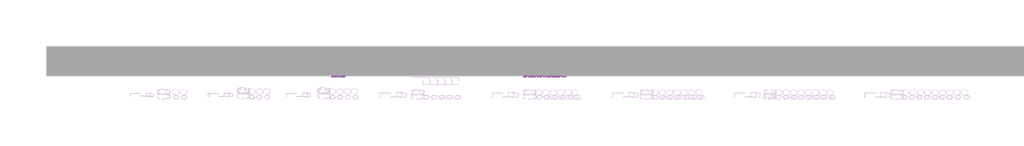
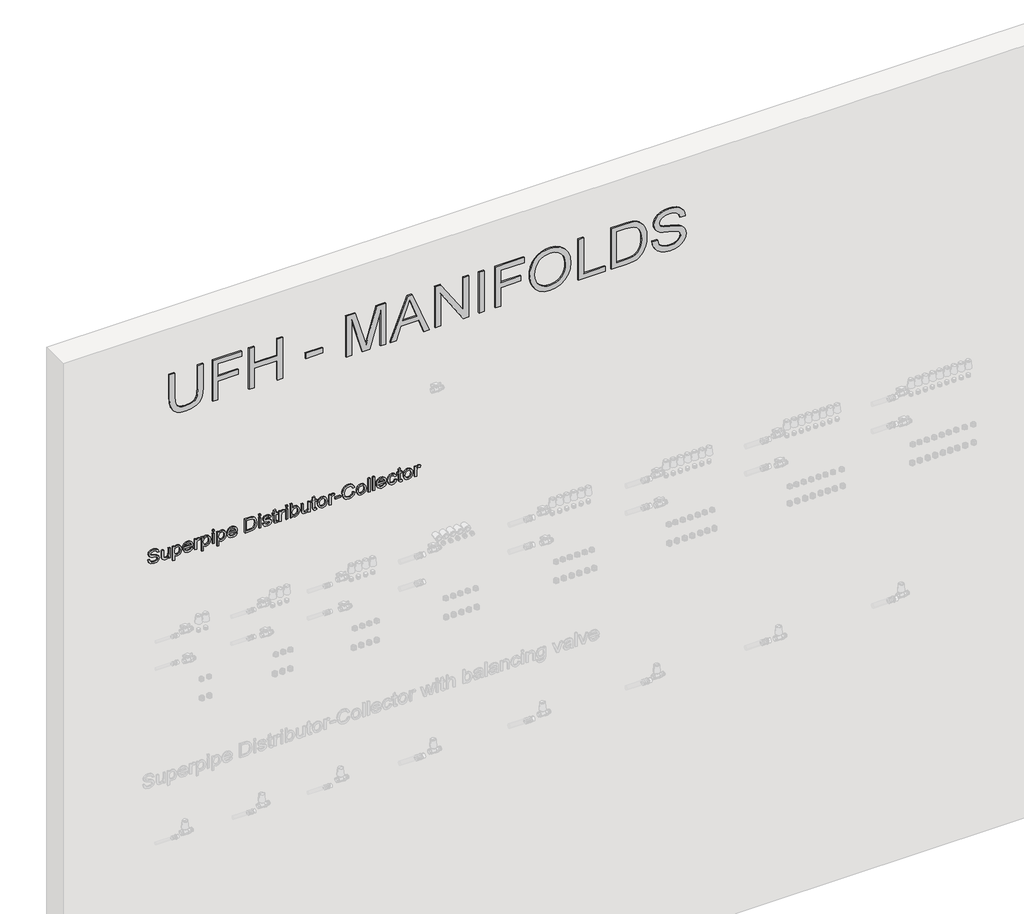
# One storey, part 10 of 26: 2 proxies.
"""IFC4 building model written with IfcOpenShell, lengths in millimetres."""

import ifcopenshell
import ifcopenshell.guid

model = None  # the IFC model being written
_history = None  # IfcOwnerHistory: only IFC2X3 demands one
_inside = {}  # id of a spatial element -> (the spatial element, [elements in it])
_under = {}  # id of a project, library or spatial element -> (it, [spatial elements below it])
_declared = {}  # id of a project -> (the project, [libraries it declares])
_typed = {}  # id of a type object -> (the type object, [elements of that type])
_made_of = {}  # id of a material, layer set ... -> (it, [elements and type objects made of it])


def new_model(schema):
    """Start an empty IFC model of exactly this schema.

    Asked for "IFC4X3", IfcOpenShell would pick the latest addendum, in which some entities
    have other attributes; the version numbers below select the first issue.
    IFC2X3 requires an IfcOwnerHistory on every rooted entity: one is made here for all.
    """
    global model, _history
    if schema == "IFC4X3":
        model = ifcopenshell.file(schema_version=(4, 3, 0, 0))
    else:
        model = ifcopenshell.file(schema=schema)
    _inside.clear()
    _under.clear()
    _declared.clear()
    _typed.clear()
    _made_of.clear()
    _history = None
    if model.schema == "IFC2X3":
        org = make("IfcOrganization", Name="unknown")
        user = make(
            "IfcPersonAndOrganization",
            ThePerson=make("IfcPerson", FamilyName="unknown"),
            TheOrganization=org,
        )
        app = make(
            "IfcApplication",
            ApplicationDeveloper=org,
            Version="unknown",
            ApplicationFullName="unknown",
            ApplicationIdentifier="unknown",
        )
        _history = make(
            "IfcOwnerHistory",
            OwningUser=user,
            OwningApplication=app,
            ChangeAction="ADDED",
            CreationDate=0,
        )
    return model


def make(cls, **values):
    """One entity of the class cls with the attributes given. An attribute that is None is left unset."""
    return model.create_entity(
        cls, **{name: value for name, value in values.items() if value is not None}
    )


def rooted(cls, **values):
    """An entity with a GlobalId (a new one), such as an element, a storey or a relation."""
    return make(cls, GlobalId=ifcopenshell.guid.new(), OwnerHistory=_history, **values)


def si_unit(unit_type, name, prefix=None):
    """IfcSIUnit, for example si_unit("LENGTHUNIT", "METRE", prefix="MILLI")."""
    return make("IfcSIUnit", UnitType=unit_type, Prefix=prefix, Name=name)


def assignment(units):
    """IfcUnitAssignment: the units of a project."""
    return None if units is None else make("IfcUnitAssignment", Units=units)


def point(xyz):
    """IfcCartesianPoint."""
    return None if xyz is None else make("IfcCartesianPoint", Coordinates=xyz)


def direction(xyz):
    """IfcDirection."""
    return None if xyz is None else make("IfcDirection", DirectionRatios=xyz)


def frame(location, z_axis=None, x_axis=None):
    """IfcAxis2Placement3D, a coordinate frame: its origin and axes. An axis left out is left unset."""
    return make(
        "IfcAxis2Placement3D",
        Location=point(location),
        Axis=direction(z_axis),
        RefDirection=direction(x_axis),
    )


def origin():
    """The frame at (0, 0, 0) with its axes left unset."""
    return frame((0.0, 0.0, 0.0))


def place(relative_to, where):
    """IfcLocalPlacement: puts the frame where relative to a parent placement (None: the world)."""
    return make(
        "IfcLocalPlacement", PlacementRelTo=relative_to, RelativePlacement=where
    )


def context(
    kind, dimensions, precision=None, world=None, true_north=None, identifier=None
):
    """IfcGeometricRepresentationContext, for example the 3D "Model" context."""
    return make(
        "IfcGeometricRepresentationContext",
        ContextIdentifier=identifier,
        ContextType=kind,
        CoordinateSpaceDimension=dimensions,
        Precision=precision,
        WorldCoordinateSystem=world,
        TrueNorth=true_north,
    )


def project(units=None, contexts=None):
    """IfcProject with its units and contexts."""
    return rooted(
        "IfcProject",
        Name="project",
        RepresentationContexts=contexts,
        UnitsInContext=assignment(units),
    )


def spatial(cls, under=None, at=None, **own):
    """A site, building, storey or space (cls), placed at a placement, below another one or the project."""
    s = rooted(cls, ObjectPlacement=at, **own)
    if under is not None:
        _under.setdefault(under.id(), (under, []))[1].append(s)
    return s


def polyline(points):
    """IfcPolyline through the points."""
    return make("IfcPolyline", Points=[point(p) for p in points])


def outline(outer, holes=None, kind="AREA"):
    """IfcArbitraryClosedProfileDef: a profile drawn as a closed curve; with holes, ...WithVoids."""
    if holes is None:
        return make("IfcArbitraryClosedProfileDef", ProfileType=kind, OuterCurve=outer)
    return make(
        "IfcArbitraryProfileDefWithVoids",
        ProfileType=kind,
        OuterCurve=outer,
        InnerCurves=holes,
    )


def extrude(swept, where, along, depth):
    """IfcExtrudedAreaSolid: the profile swept, set in the frame where, extruded along a direction by depth."""
    return make(
        "IfcExtrudedAreaSolid",
        SweptArea=swept,
        Position=where,
        ExtrudedDirection=direction(along),
        Depth=depth,
    )


def shape(context_of_items, identifier, shape_type, items):
    """IfcShapeRepresentation: the items that make up one representation, for example the "Body"."""
    return make(
        "IfcShapeRepresentation",
        ContextOfItems=context_of_items,
        RepresentationIdentifier=identifier,
        RepresentationType=shape_type,
        Items=items,
    )


def made_of(thing, what):
    """Note that an element or type object is made of a material, layer set ...; save() writes the relation."""
    if what is not None:
        _made_of.setdefault(what.id(), (what, []))[1].append(thing)
    return thing


def element(
    cls,
    number,
    at=None,
    inside=None,
    cuts=None,
    type_object=None,
    material=None,
    context=None,
    identifier="Body",
    shape_type=None,
    held_by="IfcProductDefinitionShape",
    body=None,
    shapes=None,
    **own,
):
    """One element of the class cls, such as IfcWall. Its Tag is "e" and its number.

    at: its placement. inside: the storey or other place that contains it. cuts: it is an
    opening in that element (IfcRelVoidsElement). A single representation is given by context,
    identifier, shape_type and body (its items); several are given by shapes. held_by: the class
    of the entity that holds the representations. save() writes the other relations.
    """
    e = rooted(cls, Tag="e%d" % number, ObjectPlacement=at, **own)
    if body is not None:
        shapes = [shape(context, identifier, shape_type, body)]
    if shapes is not None:
        e.Representation = make(held_by, Representations=shapes)
    if inside is not None:
        _inside.setdefault(inside.id(), (inside, []))[1].append(e)
    if cuts is not None:
        rooted(
            "IfcRelVoidsElement", RelatingBuildingElement=cuts, RelatedOpeningElement=e
        )
    if type_object is not None:
        _typed.setdefault(type_object.id(), (type_object, []))[1].append(e)
    return made_of(e, material)


def aggregate(whole, parts):
    """IfcRelAggregates: a whole, such as a stair, and the parts it consists of."""
    return rooted("IfcRelAggregates", RelatingObject=whole, RelatedObjects=parts)


def save(model, path):
    """Write the relations noted so far, then the file.

    IfcRelAggregates (storeys below a building ...), IfcRelContainedInSpatialStructure (elements
    in a storey), IfcRelDefinesByType, IfcRelAssociatesMaterial and IfcRelDeclares: one each for
    every whole, place, type object, material and project.
    """
    for whole, parts in _under.values():
        aggregate(whole, parts)
    for where, things in _inside.values():
        rooted(
            "IfcRelContainedInSpatialStructure",
            RelatedElements=things,
            RelatingStructure=where,
        )
    for kind, things in _typed.values():
        rooted("IfcRelDefinesByType", RelatedObjects=things, RelatingType=kind)
    for what, things in _made_of.values():
        rooted("IfcRelAssociatesMaterial", RelatedObjects=things, RelatingMaterial=what)
    for by, libraries in _declared.values():
        rooted("IfcRelDeclares", RelatingContext=by, RelatedDefinitions=libraries)
    model.write(path)


model = new_model("IFC4")

# Units and contexts
model_context = context("Model", 3, world=origin())
ifc_project = project(units=[si_unit("LENGTHUNIT", "METRE", prefix="MILLI")], contexts=[model_context])

# Site, building, storey
site = spatial("IfcSite", under=ifc_project)
building = spatial("IfcBuilding", under=site)
storey = spatial("IfcBuildingStorey", under=building, Name="Superpipe UFH", Elevation=0.0)

# Proxies
placement = place(None, origin())
element("IfcBuildingElementProxy", 1, Name="300mm Arial", ObjectType="300mm Arial", at=placement, inside=storey, context=model_context, shape_type="SweptSolid", body=[
    extrude(outline(polyline([(5366.4461603, 1324.8393717), (5193.9095045, 1324.8393717), (5146.7470327, 1320.0752998), (5130.008402, 1314.12021), (5117.8315079, 1305.7830843), (5109.1724855, 1294.6500554), (5102.9874694, 1280.3072561), (5098.0394566, 1241.9923463), (5100.5410541, 1217.8224993), (5108.0458468, 1197.6993541), (5120.1583615, 1182.2667044), (5136.4831251, 1172.1683437), (5160.0551639, 1166.5949314), (5193.9095045, 1164.7371273), (5366.4461603, 1164.7371273), (5366.4461603, 1127.066011), (5192.5851293, 1127.066011), (5149.8096504, 1129.9262936), (5117.1325321, 1138.5071411), (5092.769547, 1153.7742439), (5074.9364673, 1176.6932922), (5064.010372, 1207.273483), (5060.3683403, 1245.5240135), (5064.552998, 1284.6298696), (5077.1069711, 1315.4215926), (5096.3288053, 1337.9543648), (5120.5170465, 1352.2833685), (5151.8697895, 1359.9537081), (5192.5851293, 1362.510488), (5366.4461603, 1362.510488), (5366.4461603, 1324.8393717)])), frame((0.0, -1221.7394303, 0.0), z_axis=(0.0, 1.0, 0.0), x_axis=(0.0, 0.0, 1.0)), (0.0, 0.0, 1.0), 10.0),
    extrude(outline(polyline([(5065.0772298, 1428.4349415), (5065.0772298, 1466.1060578), (5201.6350264, 1466.1060578), (5201.6350264, 1607.3727439), (5239.3061427, 1607.3727439), (5239.3061427, 1466.1060578), (5328.775044, 1466.1060578), (5328.775044, 1630.9171916), (5366.4461603, 1630.9171916), (5366.4461603, 1428.4349415), (5065.0772298, 1428.4349415)])), frame((0.0, -1221.7394303, 0.0), z_axis=(0.0, 1.0, 0.0), x_axis=(0.0, 0.0, 1.0)), (0.0, 0.0, 1.0), 10.0),
    extrude(outline(polyline([(5065.0772298, 1682.7149766), (5065.0772298, 1720.3860929), (5206.343916, 1720.3860929), (5206.343916, 1880.4883372), (5065.0772298, 1880.4883372), (5065.0772298, 1918.1594535), (5366.4461603, 1918.1594535), (5366.4461603, 1880.4883372), (5244.0150323, 1880.4883372), (5244.0150323, 1720.3860929), (5366.4461603, 1720.3860929), (5366.4461603, 1682.7149766), (5065.0772298, 1682.7149766)])), frame((0.0, -1221.7394303, 0.0), z_axis=(0.0, 1.0, 0.0), x_axis=(0.0, 0.0, 1.0)), (0.0, 0.0, 1.0), 10.0),
    extrude(outline(polyline([(2195.9839362, -1221.7394303), (2078.2616978, -1221.7394303), (2078.2616978, -1211.7394303), (2195.9839362, -1211.7394303), (2195.9839362, -1221.7394303)])), frame((0.0, 0.0, 5154.546131), z_axis=(0.0, 0.0, 1.0), x_axis=(1.0, 0.0, 0.0)), (0.0, 0.0, 1.0), 37.6711163),
    extrude(outline(polyline([(5065.0772298, 2360.7950701), (5065.0772298, 2398.4661864), (5328.775044, 2398.4661864), (5065.0772298, 2474.176301), (5065.0772298, 2525.2383219), (5328.775044, 2600.9484365), (5065.0772298, 2600.9484365), (5065.0772298, 2638.6195528), (5366.4461603, 2638.6195528), (5366.4461603, 2573.7987453), (5157.7099162, 2513.1717925), (5109.6645276, 2499.7073114), (5154.0310962, 2487.2729), (5366.4461603, 2425.6158776), (5366.4461603, 2360.7950701), (5065.0772298, 2360.7950701)])), frame((0.0, -1221.7394303, 0.0), z_axis=(0.0, 1.0, 0.0), x_axis=(0.0, 0.0, 1.0)), (0.0, 0.0, 1.0), 10.0),
    extrude(outline(polyline([(5065.0772298, 2669.448064), (5065.0772298, 2709.2528959), (5159.2550206, 2743.6866506), (5159.2550206, 2867.8100358), (5065.0772298, 2902.317367), (5065.0772298, 2942.1221988), (5366.4461603, 2821.8247864), (5366.4461603, 2789.7454764), (5065.0772298, 2669.448064)]), holes=[polyline([(5196.9261369, 2757.5190137), (5277.4922938, 2787.0231497), (5328.775044, 2805.7851314), (5271.0175707, 2826.901558), (5196.9261369, 2854.0512492), (5196.9261369, 2757.5190137)])]), frame((0.0, -1221.7394303, 0.0), z_axis=(0.0, 1.0, 0.0), x_axis=(0.0, 0.0, 1.0)), (0.0, 0.0, 1.0), 10.0),
    extrude(outline(polyline([(5065.0772298, 2982.3684891), (5065.0772298, 3020.0396054), (5303.9062211, 3020.0396054), (5065.0772298, 3177.4930994), (5065.0772298, 3217.812966), (5366.4461603, 3217.812966), (5366.4461603, 3180.1418497), (5127.6907454, 3180.1418497), (5366.4461603, 3022.6883558), (5366.4461603, 2982.3684891), (5065.0772298, 2982.3684891)])), frame((0.0, -1221.7394303, 0.0), z_axis=(0.0, 1.0, 0.0), x_axis=(0.0, 0.0, 1.0)), (0.0, 0.0, 1.0), 10.0),
    extrude(outline(polyline([(3326.1174254, -1221.7394303), (3288.4463091, -1221.7394303), (3288.4463091, -1211.7394303), (3326.1174254, -1211.7394303), (3326.1174254, -1221.7394303)])), frame((0.0, 0.0, 5065.0772298), z_axis=(0.0, 0.0, 1.0), x_axis=(1.0, 0.0, 0.0)), (0.0, 0.0, 1.0), 301.3689304),
    extrude(outline(polyline([(5065.0772298, 3401.459658), (5065.0772298, 3439.1307743), (5201.6350264, 3439.1307743), (5201.6350264, 3580.3974605), (5239.3061427, 3580.3974605), (5239.3061427, 3439.1307743), (5328.775044, 3439.1307743), (5328.775044, 3603.9419082), (5366.4461603, 3603.9419082), (5366.4461603, 3401.459658), (5065.0772298, 3401.459658)])), frame((0.0, -1221.7394303, 0.0), z_axis=(0.0, 1.0, 0.0), x_axis=(0.0, 0.0, 1.0)), (0.0, 0.0, 1.0), 10.0),
    extrude(outline(polyline([(5211.7885695, 3641.6130245), (5173.2437334, 3645.9172438), (5136.7774307, 3658.8299019), (5105.0843968, 3680.0934812), (5080.8593674, 3709.4504644), (5065.4910971, 3745.0982297), (5060.3683403, 3785.2341554), (5065.0036534, 3823.0432274), (5078.9095928, 3858.185155), (5101.8286411, 3888.1491435), (5133.5032809, 3910.4243984), (5171.9653435, 3924.2475643), (5215.2466602, 3928.8552863), (5257.9577599, 3924.4774906), (5295.8863936, 3911.3441033), (5327.5058511, 3889.8597948), (5351.2894221, 3860.4292352), (5366.1886429, 3824.983805), (5371.1550498, 3785.4548846), (5368.510898, 3755.1644008), (5360.5784424, 3727.7893818), (5347.3576832, 3703.3298277), (5328.8486204, 3681.7857383), (5305.6674561, 3664.210176), (5278.4303929, 3651.6562029), (5247.1374307, 3644.1238191), (5211.7885695, 3641.6130245)]), holes=[polyline([(5211.4206875, 3679.2841408), (5241.9571924, 3681.2477109), (5267.7894062, 3687.1384214), (5288.917329, 3696.9562721), (5305.3409609, 3710.7012632), (5317.6535114, 3727.168581), (5326.4481903, 3745.153412), (5331.7249977, 3764.6557563), (5333.4839335, 3785.6756138), (5329.8327047, 3814.839459), (5318.8790183, 3840.9682777), (5301.2850619, 3862.6273301), (5277.713023, 3878.3818766), (5248.8894687, 3887.9835966), (5215.5409658, 3891.18417), (5189.0028784, 3889.3148696), (5165.6745614, 3883.7069685), (5145.5560148, 3874.3604665), (5128.6472386, 3861.2753638), (5115.256334, 3845.2931904), (5105.6914021, 3827.2554763), (5099.952443, 3807.1622216), (5098.0394566, 3785.0134262), (5099.9340489, 3763.2371113), (5105.6178257, 3743.3783814), (5115.0907871, 3725.4372363), (5128.352933, 3709.4136762), (5144.9122213, 3696.2320044), (5164.2766098, 3686.8165246), (5186.4460985, 3681.1672367), (5211.4206875, 3679.2841408)])]), frame((0.0, -1221.7394303, 0.0), z_axis=(0.0, 1.0, 0.0), x_axis=(0.0, 0.0, 1.0)), (0.0, 0.0, 1.0), 10.0),
    extrude(outline(polyline([(5065.0772298, 3980.6530712), (5065.0772298, 4169.0086528), (5102.7483461, 4169.0086528), (5102.7483461, 4018.3241875), (5366.4461603, 4018.3241875), (5366.4461603, 3980.6530712), (5065.0772298, 3980.6530712)])), frame((0.0, -1221.7394303, 0.0), z_axis=(0.0, 1.0, 0.0), x_axis=(0.0, 0.0, 1.0)), (0.0, 0.0, 1.0), 10.0),
    extrude(outline(polyline([(5065.0772298, 4211.3886586), (5065.0772298, 4320.3553056), (5070.2275777, 4368.8053643), (5076.5827392, 4388.3490953), (5085.3475277, 4404.8210117), (5097.1657368, 4419.1684095), (5112.68116, 4432.3385849), (5132.3352556, 4443.779715), (5156.569482, 4452.9399766), (5185.0343514, 4458.9548473), (5217.3803758, 4460.9598041), (5255.4561623, 4457.9983541), (5289.0437885, 4449.1140039), (5317.5914313, 4434.2699654), (5340.5472678, 4413.4294504), (5353.7358373, 4393.1591524), (5362.1051527, 4369.1364581), (5366.4461603, 4315.3521104), (5366.4461603, 4211.3886586), (5065.0772298, 4211.3886586)]), holes=[polyline([(5102.7483461, 4249.0597749), (5328.775044, 4249.0597749), (5328.775044, 4314.6899229), (5327.2667278, 4346.438139), (5322.7417792, 4368.1063886), (5310.160215, 4389.397559), (5289.3380941, 4407.2122446), (5259.0246177, 4419.269577), (5217.968987, 4423.2886878), (5186.984126, 4421.2377457), (5160.984066, 4415.0849193), (5139.8768365, 4405.253273), (5123.570467, 4392.165871), (5114.7596933, 4379.988977), (5108.1929996, 4364.2068394), (5104.1095095, 4343.292748), (5102.7483461, 4315.7199924), (5102.7483461, 4249.0597749)])]), frame((0.0, -1221.7394303, 0.0), z_axis=(0.0, 1.0, 0.0), x_axis=(0.0, 0.0, 1.0)), (0.0, 0.0, 1.0), 10.0),
    extrude(outline(polyline([(5168.6727997, 4498.6309204), (5138.2489587, 4503.1006867), (5111.1360556, 4514.8913046), (5088.8791949, 4533.2578132), (5073.0234809, 4557.4552515), (5063.5321254, 4587.8331072), (5060.3683403, 4624.7408684), (5063.3021992, 4654.8060244), (5072.1037759, 4681.7257894), (5086.1936563, 4704.1114088), (5104.9924263, 4720.5741281), (5126.8354198, 4730.70008), (5150.0579707, 4734.0753974), (5172.7746839, 4731.1415384), (5192.6587057, 4722.3399617), (5209.5260952, 4707.3579675), (5223.1929113, 4685.882856), (5232.0036851, 4660.7565157), (5242.1020459, 4619.2226385), (5252.7338356, 4578.9763482), (5263.144896, 4557.7127689), (5274.7883612, 4548.7180541), (5289.2645177, 4545.7198158), (5306.2422717, 4549.9504588), (5320.5344873, 4562.6423876), (5330.2465719, 4584.5865486), (5333.4839335, 4616.5738881), (5330.2097837, 4647.8254636), (5320.3873345, 4670.3582358), (5304.1637385, 4684.77921), (5281.6861486, 4691.6953915), (5281.6861486, 4729.3665078), (5306.6469419, 4725.1174708), (5328.8486204, 4714.4304988), (5347.1507496, 4697.5447152), (5360.4128955, 4674.6992433), (5368.4695112, 4646.8873645), (5371.1550498, 4615.1023601), (5368.5890729, 4585.763771), (5360.8911421, 4559.2578732), (5348.2360015, 4537.1757565), (5330.7983949, 4521.1085103), (5310.2245943, 4511.3136522), (5288.1608717, 4508.0486995), (5268.4240026, 4510.6882528), (5250.7104846, 4518.6069128), (5235.3514113, 4531.8966499), (5222.6778765, 4550.6494346), (5213.6187824, 4573.6880445), (5204.0998358, 4609.6944948), (5189.7156498, 4664.5457003), (5181.9073544, 4680.6221435), (5172.609137, 4690.1502871), (5161.7106329, 4694.8407826), (5149.1014775, 4696.404281), (5136.1612283, 4694.3165507), (5123.8279844, 4688.0533598), (5113.0858302, 4677.5227376), (5104.9188499, 4662.6327139), (5099.7593049, 4644.2570082), (5098.0394566, 4623.2693404), (5100.3111279, 4599.4305871), (5107.1261419, 4578.0934314), (5117.6291728, 4560.6374307), (5130.9648951, 4548.4421426), (5147.7679053, 4540.6246502), (5168.6727997, 4536.3020367), (5168.6727997, 4498.6309204)])), frame((0.0, -1221.7394303, 0.0), z_axis=(0.0, 1.0, 0.0), x_axis=(0.0, 0.0, 1.0)), (0.0, 0.0, 1.0), 10.0),
])
element("IfcBuildingElementProxy", 2, Name="600mm Arial 2", ObjectType="600mm Arial 2", at=placement, inside=storey, context=model_context, shape_type="SweptSolid", body=[
    extrude(outline(polyline([(4048.7008113, 978.3492492), (4029.5218966, 983.7693772), (4016.817705, 997.9573595), (4012.5993248, 1020.3858985), (4016.5111367, 1039.3808722), (4027.4740202, 1052.3303184), (4042.4958683, 1056.8307415), (4056.6961133, 1052.9189296), (4066.8741818, 1040.766561), (4073.1772267, 1018.5464885), (4080.1915101, 998.0431987), (4088.8980506, 994.0455476), (4099.3213738, 999.6864049), (4103.6378559, 1017.6635717), (4099.2723229, 1035.5916876), (4093.8644576, 1040.398679), (4086.3719276, 1042.7040729), (4086.3719276, 1055.2611116), (4102.0927515, 1050.282442), (4112.6141766, 1037.0386902), (4116.1948947, 1017.1730624), (4112.7735921, 998.5582335), (4102.7426764, 985.8417792), (4088.5301686, 981.4885089), (4076.0467063, 985.0079133), (4066.7025036, 995.6887539), (4060.5098233, 1015.3704406), (4055.7150947, 1033.6541758), (4050.0129237, 1042.1890381), (4042.1770372, 1044.2737027), (4033.7525395, 1041.4900623), (4027.4494947, 1033.0165137), (4025.1563636, 1019.8953892), (4028.1852587, 1004.8367528), (4036.1315098, 994.9529899), (4048.7008113, 990.906288), (4048.7008113, 978.3492492)])), frame((0.0, -1221.7394303, 0.0), z_axis=(0.0, 1.0, 0.0), x_axis=(0.0, 0.0, 1.0)), (0.0, 0.0, 1.0), 10.0),
    extrude(outline(polyline([(4014.1689547, 1121.1855652), (4014.1689547, 1133.742604), (4087.9415574, 1133.742604), (4087.9415574, 1121.1855652), (4049.5592026, 1121.1855652), (4035.5674241, 1119.1499515), (4027.9522668, 1112.2215072), (4025.1563636, 1101.7368704), (4027.8909531, 1092.380405), (4035.4080085, 1087.413998), (4048.210302, 1086.6537086), (4087.9415574, 1086.6537086), (4087.9415574, 1074.0966698), (4042.2996646, 1074.0966698), (4030.6255426, 1074.8324338), (4021.3794418, 1078.5725674), (4015.1009224, 1086.7150222), (4012.5993248, 1098.5240343), (4016.1616488, 1111.3508532), (4026.8486208, 1121.1855652), (4014.1689547, 1121.1855652)])), frame((0.0, -1221.7394303, 0.0), z_axis=(0.0, 1.0, 0.0), x_axis=(0.0, 0.0, 1.0)), (0.0, 0.0, 1.0), 10.0),
    extrude(outline(polyline([(3985.9156174, 1151.0085323), (3985.9156174, 1163.565571), (4023.9791412, 1163.565571), (4015.8244236, 1171.5240849), (4012.5993248, 1182.4501801), (4017.418579, 1198.3304196), (4031.2754674, 1209.8328633), (4051.6193418, 1213.7937261), (4070.9699347, 1210.2865844), (4084.6551449, 1199.8877867), (4089.5111873, 1183.970759), (4086.0408338, 1172.2475861), (4075.6297733, 1163.565571), (4087.9415574, 1163.565571), (4087.9415574, 1151.0085323), (3985.9156174, 1151.0085323)]), holes=[polyline([(4050.4666449, 1163.565571), (4061.8556583, 1165.0156392), (4070.1728571, 1169.3658438), (4075.2588256, 1175.598378), (4076.9541485, 1182.6954348), (4075.3599932, 1189.7649004), (4070.5775273, 1195.7675083), (4062.594488, 1199.8693926), (4051.3986126, 1201.2366873), (4039.7183592, 1199.8356701), (4031.5575103, 1195.6326183), (4026.7566503, 1189.4675292), (4025.1563636, 1182.1804), (4026.701468, 1175.0097668), (4031.3367811, 1168.9979618), (4039.2094558, 1164.9236687), (4050.4666449, 1163.565571)])]), frame((0.0, -1221.7394303, 0.0), z_axis=(0.0, 1.0, 0.0), x_axis=(0.0, 0.0, 1.0)), (0.0, 0.0, 1.0), 10.0),
    extrude(outline(polyline([(4036.1437725, 1279.5710268), (4027.7805885, 1271.4776229), (4025.1563636, 1259.1658388), (4026.5727093, 1250.278423), (4030.8217463, 1242.9912938), (4037.7317965, 1237.9421134), (4047.1311814, 1235.7685439), (4047.1311814, 1292.201642), (4050.5156958, 1292.2752184), (4066.9784151, 1289.8931825), (4079.2840678, 1282.7470747), (4086.9544074, 1271.8485706), (4089.5111873, 1258.2093457), (4086.948276, 1244.131728), (4079.2595423, 1232.9481153), (4066.9293641, 1225.6456577), (4050.4421194, 1223.2115052), (4034.4913692, 1225.6211322), (4022.5444014, 1232.8500135), (4015.085594, 1244.1869103), (4012.5993248, 1258.9205842), (4014.040196, 1270.8062383), (4018.3628094, 1280.3681045), (4025.297385, 1287.4467672), (4034.5741427, 1291.8828109), (4036.1437725, 1279.5710268)]), holes=[polyline([(4059.6882202, 1235.7685439), (4066.7668829, 1237.8317488), (4072.2575217, 1242.6969882), (4076.9541485, 1258.1602947), (4075.4826205, 1267.3696073), (4071.0680366, 1274.690459), (4059.6882202, 1279.7181796), (4059.6882202, 1235.7685439)])]), frame((0.0, -1221.7394303, 0.0), z_axis=(0.0, 1.0, 0.0), x_axis=(0.0, 0.0, 1.0)), (0.0, 0.0, 1.0), 10.0),
    extrude(outline(polyline([(4014.1689547, 1304.8322572), (4014.1689547, 1317.3892959), (4052.943717, 1317.3892959), (4067.6099458, 1319.4249096), (4074.4770764, 1323.9498582), (4076.9541485, 1331.0499807), (4074.3789745, 1339.8791486), (4085.6361636, 1344.0730033), (4089.5111873, 1331.4669136), (4087.0831661, 1323.6187644), (4077.0277249, 1315.8196661), (4087.9415574, 1315.8196661), (4087.9415574, 1304.8322572), (4014.1689547, 1304.8322572)])), frame((0.0, -1221.7394303, 0.0), z_axis=(0.0, 1.0, 0.0), x_axis=(0.0, 0.0, 1.0)), (0.0, 0.0, 1.0), 10.0),
    extrude(outline(polyline([(3985.9156174, 1351.9211526), (3985.9156174, 1364.4781913), (4023.9791412, 1364.4781913), (4015.8244236, 1372.4367052), (4012.5993248, 1383.3628004), (4017.418579, 1399.2430399), (4031.2754674, 1410.7454836), (4051.6193418, 1414.7063464), (4070.9699347, 1411.1992047), (4084.6551449, 1400.800407), (4089.5111873, 1384.8833793), (4086.0408338, 1373.1602064), (4075.6297733, 1364.4781913), (4087.9415574, 1364.4781913), (4087.9415574, 1351.9211526), (3985.9156174, 1351.9211526)]), holes=[polyline([(4050.4666449, 1364.4781913), (4061.8556583, 1365.9282595), (4070.1728571, 1370.2784641), (4075.2588256, 1376.5109983), (4076.9541485, 1383.6080551), (4075.3599932, 1390.6775207), (4070.5775273, 1396.6801286), (4062.594488, 1400.7820129), (4051.3986126, 1402.1493076), (4039.7183592, 1400.7482904), (4031.5575103, 1396.5452386), (4026.7566503, 1390.3801495), (4025.1563636, 1383.0930203), (4026.701468, 1375.9223871), (4031.3367811, 1369.9105821), (4039.2094558, 1365.836289), (4050.4666449, 1364.4781913)])]), frame((0.0, -1221.7394303, 0.0), z_axis=(0.0, 1.0, 0.0), x_axis=(0.0, 0.0, 1.0)), (0.0, 0.0, 1.0), 10.0),
    extrude(outline(polyline([(1441.3900538, -1221.7394303), (1428.833015, -1221.7394303), (1428.833015, -1211.7394303), (1441.3900538, -1211.7394303), (1441.3900538, -1221.7394303)])), frame((0.0, 0.0, 4102.068226), z_axis=(0.0, 0.0, 1.0), x_axis=(1.0, 0.0, 0.0)), (0.0, 0.0, 1.0), 12.5570388),
    extrude(outline(polyline([(1441.3900538, -1221.7394303), (1428.833015, -1221.7394303), (1428.833015, -1211.7394303), (1441.3900538, -1211.7394303), (1441.3900538, -1221.7394303)])), frame((0.0, 0.0, 4014.1689547), z_axis=(0.0, 0.0, 1.0), x_axis=(1.0, 0.0, 0.0)), (0.0, 0.0, 1.0), 73.7726028),
    extrude(outline(polyline([(3985.9156174, 1460.2256119), (3985.9156174, 1472.7826507), (4023.9791412, 1472.7826507), (4015.8244236, 1480.7411645), (4012.5993248, 1491.6672598), (4017.418579, 1507.5474992), (4031.2754674, 1519.049943), (4051.6193418, 1523.0108058), (4070.9699347, 1519.5036641), (4084.6551449, 1509.1048664), (4089.5111873, 1493.1878387), (4086.0408338, 1481.4646658), (4075.6297733, 1472.7826507), (4087.9415574, 1472.7826507), (4087.9415574, 1460.2256119), (3985.9156174, 1460.2256119)]), holes=[polyline([(4050.4666449, 1472.7826507), (4061.8556583, 1474.2327189), (4070.1728571, 1478.5829235), (4075.2588256, 1484.8154576), (4076.9541485, 1491.9125145), (4075.3599932, 1498.9819801), (4070.5775273, 1504.984588), (4062.594488, 1509.0864723), (4051.3986126, 1510.453767), (4039.7183592, 1509.0527497), (4031.5575103, 1504.849698), (4026.7566503, 1498.6846088), (4025.1563636, 1491.3974797), (4026.701468, 1484.2268464), (4031.3367811, 1478.2150415), (4039.2094558, 1474.1407484), (4050.4666449, 1472.7826507)])]), frame((0.0, -1221.7394303, 0.0), z_axis=(0.0, 1.0, 0.0), x_axis=(0.0, 0.0, 1.0)), (0.0, 0.0, 1.0), 10.0),
    extrude(outline(polyline([(4036.1437725, 1588.7881065), (4027.7805885, 1580.6947026), (4025.1563636, 1568.3829185), (4026.5727093, 1559.4955027), (4030.8217463, 1552.2083735), (4037.7317965, 1547.1591931), (4047.1311814, 1544.9856236), (4047.1311814, 1601.4187217), (4050.5156958, 1601.4922981), (4066.9784151, 1599.1102622), (4079.2840678, 1591.9641544), (4086.9544074, 1581.0656503), (4089.5111873, 1567.4264253), (4086.948276, 1553.3488076), (4079.2595423, 1542.165195), (4066.9293641, 1534.8627374), (4050.4421194, 1532.4285849), (4034.4913692, 1534.8382119), (4022.5444014, 1542.0670931), (4015.085594, 1553.4039899), (4012.5993248, 1568.1376639), (4014.040196, 1580.023318), (4018.3628094, 1589.5851842), (4025.297385, 1596.6638469), (4034.5741427, 1601.0998906), (4036.1437725, 1588.7881065)]), holes=[polyline([(4059.6882202, 1544.9856236), (4066.7668829, 1547.0488285), (4072.2575217, 1551.9140679), (4076.9541485, 1567.3773744), (4075.4826205, 1576.586687), (4071.0680366, 1583.9075387), (4059.6882202, 1588.9352593), (4059.6882202, 1544.9856236)])]), frame((0.0, -1221.7394303, 0.0), z_axis=(0.0, 1.0, 0.0), x_axis=(0.0, 0.0, 1.0)), (0.0, 0.0, 1.0), 10.0),
    extrude(outline(polyline([(4014.1689547, 1654.8597129), (4014.1689547, 1691.1819285), (4015.8857373, 1707.3319481), (4020.9257206, 1719.3371639), (4030.0369314, 1728.5096883), (4044.6663721, 1735.3768189), (4064.93667, 1738.0500947), (4088.8244742, 1734.1014946), (4105.9923007, 1722.2066434), (4113.1782623, 1707.4423127), (4114.6252648, 1689.5141968), (4114.6252648, 1654.8597129), (4014.1689547, 1654.8597129)]), holes=[polyline([(4026.7259934, 1667.4167516), (4102.068226, 1667.4167516), (4102.068226, 1689.2934676), (4100.0571378, 1707.0989562), (4088.9225761, 1720.1342415), (4078.818084, 1724.1533523), (4065.1328737, 1725.4930559), (4046.1379, 1722.7584664), (4033.6667004, 1715.1187837), (4028.5408779, 1705.7991065), (4026.7259934, 1689.6368241), (4026.7259934, 1667.4167516)])]), frame((0.0, -1221.7394303, 0.0), z_axis=(0.0, 1.0, 0.0), x_axis=(0.0, 0.0, 1.0)), (0.0, 0.0, 1.0), 10.0),
    extrude(outline(polyline([(1766.3034319, -1221.7394303), (1753.7463932, -1221.7394303), (1753.7463932, -1211.7394303), (1766.3034319, -1211.7394303), (1766.3034319, -1221.7394303)])), frame((0.0, 0.0, 4102.068226), z_axis=(0.0, 0.0, 1.0), x_axis=(1.0, 0.0, 0.0)), (0.0, 0.0, 1.0), 12.5570388),
    extrude(outline(polyline([(1766.3034319, -1221.7394303), (1753.7463932, -1221.7394303), (1753.7463932, -1211.7394303), (1766.3034319, -1211.7394303), (1766.3034319, -1221.7394303)])), frame((0.0, 0.0, 4014.1689547), z_axis=(0.0, 0.0, 1.0), x_axis=(1.0, 0.0, 0.0)), (0.0, 0.0, 1.0), 73.7726028),
    extrude(outline(polyline([(4036.1437725, 1780.4301005), (4025.9043903, 1783.8759286), (4018.5344877, 1790.0440833), (4014.0831155, 1799.2840528), (4012.5993248, 1811.9453248), (4015.6772708, 1827.4944705), (4024.3960741, 1838.0036328), (4036.4135526, 1841.6456645), (4047.3273852, 1838.543193), (4054.0228375, 1829.9838053), (4059.9334749, 1811.5529173), (4062.6067507, 1800.7371867), (4065.3781284, 1796.0528226), (4069.0324229, 1794.5567692), (4074.5751783, 1798.1620127), (4076.9541485, 1810.1794912), (4074.4648137, 1821.2282138), (4067.5363694, 1825.9493661), (4069.1059993, 1838.5064048), (4080.3754511, 1834.1899228), (4087.0463779, 1824.4778381), (4089.5111873, 1809.1984726), (4087.9783456, 1798.3950046), (4084.2627375, 1790.4119653), (4077.113564, 1784.2560733), (4067.7570986, 1781.9997304), (4057.628081, 1784.8078963), (4050.4543821, 1793.0607157), (4044.3107528, 1811.9698503), (4040.7300347, 1824.894771), (4035.0891775, 1829.0886258), (4028.123945, 1824.9192965), (4025.1563636, 1812.1170031), (4028.3937251, 1798.7996748), (4037.7134024, 1792.9871393), (4036.1437725, 1780.4301005)])), frame((0.0, -1221.7394303, 0.0), z_axis=(0.0, 1.0, 0.0), x_axis=(0.0, 0.0, 1.0)), (0.0, 0.0, 1.0), 10.0),
    extrude(outline(polyline([(4024.6413288, 1882.4560405), (4025.1563636, 1876.9868615), (4026.0024922, 1872.7071677), (4028.2956233, 1870.5611894), (4034.7703464, 1869.8990018), (4075.3845187, 1869.8990018), (4075.3845187, 1882.4560405), (4087.9415574, 1882.4560405), (4087.9415574, 1869.8990018), (4113.2518387, 1869.8990018), (4105.8696733, 1857.341963), (4087.9415574, 1857.341963), (4087.9415574, 1847.9241839), (4075.3845187, 1847.9241839), (4075.3845187, 1857.341963), (4034.4024644, 1857.341963), (4020.1531685, 1858.8625419), (4014.6839895, 1864.1109917), (4012.5993248, 1874.6324168), (4013.8010727, 1884.0256704), (4024.6413288, 1882.4560405)])), frame((0.0, -1221.7394303, 0.0), z_axis=(0.0, 1.0, 0.0), x_axis=(0.0, 0.0, 1.0)), (0.0, 0.0, 1.0), 10.0),
    extrude(outline(polyline([(4014.1689547, 1895.0130793), (4014.1689547, 1907.5701181), (4052.943717, 1907.5701181), (4067.6099458, 1909.6057318), (4074.4770764, 1914.1306803), (4076.9541485, 1921.2308028), (4074.3789745, 1930.0599707), (4085.6361636, 1934.2538255), (4089.5111873, 1921.6477358), (4087.0831661, 1913.7995865), (4077.0277249, 1906.0004882), (4087.9415574, 1906.0004882), (4087.9415574, 1895.0130793), (4014.1689547, 1895.0130793)])), frame((0.0, -1221.7394303, 0.0), z_axis=(0.0, 1.0, 0.0), x_axis=(0.0, 0.0, 1.0)), (0.0, 0.0, 1.0), 10.0),
    extrude(outline(polyline([(1954.6590135, -1221.7394303), (1942.1019747, -1221.7394303), (1942.1019747, -1211.7394303), (1954.6590135, -1211.7394303), (1954.6590135, -1221.7394303)])), frame((0.0, 0.0, 4014.1689547), z_axis=(0.0, 0.0, 1.0), x_axis=(1.0, 0.0, 0.0)), (0.0, 0.0, 1.0), 73.7726028),
    extrude(outline(polyline([(1954.6590135, -1221.7394303), (1942.1019747, -1221.7394303), (1942.1019747, -1211.7394303), (1954.6590135, -1211.7394303), (1954.6590135, -1221.7394303)])), frame((0.0, 0.0, 4102.068226), z_axis=(0.0, 0.0, 1.0), x_axis=(1.0, 0.0, 0.0)), (0.0, 0.0, 1.0), 12.5570388),
    extrude(outline(polyline([(4014.1689547, 1986.0516104), (4025.916653, 1986.0516104), (4015.9286569, 1994.5312904), (4012.5993248, 2005.6965089), (4015.1806302, 2017.398222), (4022.9245462, 2027.291182), (4035.3957458, 2034.0326196), (4052.158902, 2036.2797655), (4067.1316992, 2034.1092617), (4079.0878641, 2028.1127852), (4086.7765978, 2018.3516496), (4089.5111873, 2005.7700853), (4086.4761608, 1994.8439901), (4077.3710814, 1986.0516104), (4114.6252648, 1986.0516104), (4114.6252648, 1973.4945716), (4014.1689547, 1973.4945716), (4014.1689547, 1986.0516104)]), holes=[polyline([(4051.5702908, 1986.0516104), (4062.4534665, 1987.4679561), (4070.4303745, 1991.7169931), (4075.323205, 1997.9096734), (4076.9541485, 2005.1569487), (4075.3783873, 2012.2907937), (4070.6511037, 2018.2903359), (4062.6190134, 2022.364629), (4051.1288324, 2023.7227267), (4039.8041984, 2022.306381), (4031.6801376, 2018.057344), (4026.7873071, 2011.8646637), (4025.1563636, 2004.6173884), (4027.3697869, 1996.064132), (4034.0100569, 1989.4851757), (4051.5702908, 1986.0516104)])]), frame((0.0, -1221.7394303, 0.0), z_axis=(0.0, 1.0, 0.0), x_axis=(0.0, 0.0, 1.0)), (0.0, 0.0, 1.0), 10.0),
    extrude(outline(polyline([(4014.1689547, 2097.4953294), (4014.1689547, 2110.0523682), (4087.9415574, 2110.0523682), (4087.9415574, 2097.4953294), (4049.5592026, 2097.4953294), (4035.5674241, 2095.4597157), (4027.9522668, 2088.5312715), (4025.1563636, 2078.0466346), (4027.8909531, 2068.6901692), (4035.4080085, 2063.7237623), (4048.210302, 2062.9634728), (4087.9415574, 2062.9634728), (4087.9415574, 2050.4064341), (4042.2996646, 2050.4064341), (4030.6255426, 2051.1421981), (4021.3794418, 2054.8823317), (4015.1009224, 2063.0247865), (4012.5993248, 2074.8337985), (4016.1616488, 2087.6606174), (4026.8486208, 2097.4953294), (4014.1689547, 2097.4953294)])), frame((0.0, -1221.7394303, 0.0), z_axis=(0.0, 1.0, 0.0), x_axis=(0.0, 0.0, 1.0)), (0.0, 0.0, 1.0), 10.0),
    extrude(outline(polyline([(4024.6413288, 2154.0020039), (4025.1563636, 2148.5328249), (4026.0024922, 2144.253131), (4028.2956233, 2142.1071527), (4034.7703464, 2141.4449651), (4075.3845187, 2141.4449651), (4075.3845187, 2154.0020039), (4087.9415574, 2154.0020039), (4087.9415574, 2141.4449651), (4113.2518387, 2141.4449651), (4105.8696733, 2128.8879264), (4087.9415574, 2128.8879264), (4087.9415574, 2119.4701473), (4075.3845187, 2119.4701473), (4075.3845187, 2128.8879264), (4034.4024644, 2128.8879264), (4020.1531685, 2130.4085053), (4014.6839895, 2135.6569551), (4012.5993248, 2146.1783801), (4013.8010727, 2155.5716338), (4024.6413288, 2154.0020039)])), frame((0.0, -1221.7394303, 0.0), z_axis=(0.0, 1.0, 0.0), x_axis=(0.0, 0.0, 1.0)), (0.0, 0.0, 1.0), 10.0),
    extrude(outline(polyline([(4051.055256, 2163.419783), (4034.5986681, 2165.6975857), (4022.5076132, 2172.5309937), (4015.0763969, 2183.0554845), (4012.5993248, 2196.4065352), (4017.0997479, 2213.4149461), (4029.7426258, 2225.2730091), (4052.0853256, 2229.3442365), (4067.7233761, 2227.0419084), (4079.5661107, 2220.1349239), (4087.0249181, 2209.5981704), (4089.5111873, 2196.4065352), (4087.4694422, 2184.3522685), (4081.344207, 2174.2845646), (4068.8423505, 2166.1359784), (4051.055256, 2163.419783)]), holes=[polyline([(4051.0797815, 2175.9768218), (4062.4381381, 2177.4299556), (4070.5162136, 2181.7893573), (4075.3446648, 2188.3499195), (4076.9541485, 2196.4065352), (4075.3385334, 2204.3803775), (4070.4916881, 2210.937874), (4062.5055831, 2215.3248668), (4051.472189, 2216.7871978), (4039.8593807, 2215.3340639), (4031.6556122, 2210.9746622), (4026.7811757, 2204.4263627), (4025.1563636, 2196.4065352), (4026.7719787, 2188.3499195), (4031.618824, 2181.7893573), (4039.7152935, 2177.4299556), (4051.0797815, 2175.9768218)])]), frame((0.0, -1221.7394303, 0.0), z_axis=(0.0, 1.0, 0.0), x_axis=(0.0, 0.0, 1.0)), (0.0, 0.0, 1.0), 10.0),
    extrude(outline(polyline([(4014.1689547, 2243.4709051), (4014.1689547, 2256.0279439), (4052.943717, 2256.0279439), (4067.6099458, 2258.0635576), (4074.4770764, 2262.5885062), (4076.9541485, 2269.6886287), (4074.3789745, 2278.5177965), (4085.6361636, 2282.7116513), (4089.5111873, 2270.1055616), (4087.0831661, 2262.2574124), (4077.0277249, 2254.4583141), (4087.9415574, 2254.4583141), (4087.9415574, 2243.4709051), (4014.1689547, 2243.4709051)])), frame((0.0, -1221.7394303, 0.0), z_axis=(0.0, 1.0, 0.0), x_axis=(0.0, 0.0, 1.0)), (0.0, 0.0, 1.0), 10.0),
    extrude(outline(polyline([(2323.5220273, -1221.7394303), (2284.2812811, -1221.7394303), (2284.2812811, -1211.7394303), (2323.5220273, -1211.7394303), (2323.5220273, -1221.7394303)])), frame((0.0, 0.0, 4043.9919217), z_axis=(0.0, 0.0, 1.0), x_axis=(1.0, 0.0, 0.0)), (0.0, 0.0, 1.0), 12.5570388),
    extrude(outline(polyline([(4049.8780337, 2409.8516688), (4039.1236167, 2405.7896385), (4031.385832, 2399.1953537), (4026.7137307, 2390.461222), (4025.1563636, 2379.9796508), (4029.7303631, 2362.6524088), (4043.5504633, 2350.8556595), (4065.1819247, 2347.066475), (4083.8458046, 2350.2670483), (4098.2667788, 2361.3648219), (4103.6378559, 2381.0097204), (4098.7940763, 2397.9813431), (4083.3552952, 2408.282039), (4086.3474021, 2420.8390777), (4098.9534918, 2415.2932567), (4108.3712709, 2406.6510955), (4114.2389887, 2395.2682134), (4116.1948947, 2381.5002297), (4114.6835128, 2368.8818773), (4110.1493672, 2357.3671708), (4102.7028225, 2347.6581519), (4092.4542432, 2340.4568618), (4079.805234, 2335.9962926), (4065.1573992, 2334.5094362), (4038.3020135, 2339.7701487), (4027.2716851, 2346.2326091), (4019.1966753, 2355.0985652), (4014.2486624, 2366.6653883), (4012.5993248, 2381.2304496), (4014.7790256, 2395.5778474), (4021.3181281, 2407.5217495), (4032.0081657, 2416.6145662), (4046.6406721, 2422.4087076), (4049.8780337, 2409.8516688)])), frame((0.0, -1221.7394303, 0.0), z_axis=(0.0, 1.0, 0.0), x_axis=(0.0, 0.0, 1.0)), (0.0, 0.0, 1.0), 10.0),
    extrude(outline(polyline([(4051.055256, 2434.9657464), (4034.5986681, 2437.243549), (4022.5076132, 2444.0769571), (4015.0763969, 2454.6014478), (4012.5993248, 2467.9524986), (4017.0997479, 2484.9609095), (4029.7426258, 2496.8189725), (4052.0853256, 2500.8901999), (4067.7233761, 2498.5878717), (4079.5661107, 2491.6808873), (4087.0249181, 2481.1441338), (4089.5111873, 2467.9524986), (4087.4694422, 2455.8982319), (4081.344207, 2445.8305279), (4068.8423505, 2437.6819418), (4051.055256, 2434.9657464)]), holes=[polyline([(4051.0797815, 2447.5227851), (4062.4381381, 2448.975919), (4070.5162136, 2453.3353206), (4075.3446648, 2459.8958829), (4076.9541485, 2467.9524986), (4075.3385334, 2475.9263408), (4070.4916881, 2482.4838374), (4062.5055831, 2486.8708302), (4051.472189, 2488.3331611), (4039.8593807, 2486.8800272), (4031.6556122, 2482.5206256), (4026.7811757, 2475.9723261), (4025.1563636, 2467.9524986), (4026.7719787, 2459.8958829), (4031.618824, 2453.3353206), (4039.7152935, 2448.975919), (4051.0797815, 2447.5227851)])]), frame((0.0, -1221.7394303, 0.0), z_axis=(0.0, 1.0, 0.0), x_axis=(0.0, 0.0, 1.0)), (0.0, 0.0, 1.0), 10.0),
    extrude(outline(polyline([(2527.5739073, -1221.7394303), (2515.0168685, -1221.7394303), (2515.0168685, -1211.7394303), (2527.5739073, -1211.7394303), (2527.5739073, -1221.7394303)])), frame((0.0, 0.0, 4014.1689547), z_axis=(0.0, 0.0, 1.0), x_axis=(1.0, 0.0, 0.0)), (0.0, 0.0, 1.0), 100.4563101),
    extrude(outline(polyline([(2558.9665042, -1221.7394303), (2546.4094654, -1221.7394303), (2546.4094654, -1211.7394303), (2558.9665042, -1211.7394303), (2558.9665042, -1221.7394303)])), frame((0.0, 0.0, 4014.1689547), z_axis=(0.0, 0.0, 1.0), x_axis=(1.0, 0.0, 0.0)), (0.0, 0.0, 1.0), 100.4563101),
    extrude(outline(polyline([(4036.1437725, 2629.4526945), (4027.7805885, 2621.3592906), (4025.1563636, 2609.0475065), (4026.5727093, 2600.1600906), (4030.8217463, 2592.8729614), (4037.7317965, 2587.823781), (4047.1311814, 2585.6502116), (4047.1311814, 2642.0833096), (4050.5156958, 2642.156886), (4066.9784151, 2639.7748501), (4079.2840678, 2632.6287424), (4086.9544074, 2621.7302383), (4089.5111873, 2608.0910133), (4086.948276, 2594.0133956), (4079.2595423, 2582.829783), (4066.9293641, 2575.5273253), (4050.4421194, 2573.0931728), (4034.4913692, 2575.5027999), (4022.5444014, 2582.7316811), (4015.085594, 2594.0685779), (4012.5993248, 2608.8022518), (4014.040196, 2620.6879059), (4018.3628094, 2630.2497721), (4025.297385, 2637.3284349), (4034.5741427, 2641.7644786), (4036.1437725, 2629.4526945)]), holes=[polyline([(4059.6882202, 2585.6502116), (4066.7668829, 2587.7134164), (4072.2575217, 2592.5786558), (4076.9541485, 2608.0419624), (4075.4826205, 2617.251275), (4071.0680366, 2624.5721267), (4059.6882202, 2629.5998473), (4059.6882202, 2585.6502116)])]), frame((0.0, -1221.7394303, 0.0), z_axis=(0.0, 1.0, 0.0), x_axis=(0.0, 0.0, 1.0)), (0.0, 0.0, 1.0), 10.0),
    extrude(outline(polyline([(4040.852662, 2701.8028202), (4029.0068618, 2695.7818182), (4025.1563636, 2683.9482807), (4026.6984023, 2675.9376502), (4031.3245184, 2669.6131456), (4039.3596743, 2665.5020643), (4051.1288324, 2664.1317039), (4062.7416408, 2665.5327212), (4070.7492055, 2669.7357729), (4075.4029128, 2676.1767735), (4076.9541485, 2684.2916372), (4073.8026261, 2694.4083921), (4064.3971097, 2700.2331903), (4065.9667396, 2712.7902291), (4075.9608671, 2709.3719922), (4083.3798207, 2703.2866109), (4087.9783456, 2694.8038652), (4089.5111873, 2684.1935354), (4085.0475524, 2667.111548), (4071.644385, 2655.4129006), (4050.7854759, 2651.5746651), (4034.4852378, 2653.821811), (4022.470825, 2660.5632485), (4015.0671999, 2671.0080315), (4012.5993248, 2684.3652136), (4014.3682241, 2695.2422579), (4019.6749219, 2704.2798923), (4028.114748, 2710.8588486), (4039.2830322, 2714.359859), (4040.852662, 2701.8028202)])), frame((0.0, -1221.7394303, 0.0), z_axis=(0.0, 1.0, 0.0), x_axis=(0.0, 0.0, 1.0)), (0.0, 0.0, 1.0), 10.0),
    extrude(outline(polyline([(4024.6413288, 2752.0309753), (4025.1563636, 2746.5617963), (4026.0024922, 2742.2821024), (4028.2956233, 2740.1361241), (4034.7703464, 2739.4739365), (4075.3845187, 2739.4739365), (4075.3845187, 2752.0309753), (4087.9415574, 2752.0309753), (4087.9415574, 2739.4739365), (4113.2518387, 2739.4739365), (4105.8696733, 2726.9168977), (4087.9415574, 2726.9168977), (4087.9415574, 2717.4991187), (4075.3845187, 2717.4991187), (4075.3845187, 2726.9168977), (4034.4024644, 2726.9168977), (4020.1531685, 2728.4374766), (4014.6839895, 2733.6859264), (4012.5993248, 2744.2073515), (4013.8010727, 2753.6006051), (4024.6413288, 2752.0309753)])), frame((0.0, -1221.7394303, 0.0), z_axis=(0.0, 1.0, 0.0), x_axis=(0.0, 0.0, 1.0)), (0.0, 0.0, 1.0), 10.0),
    extrude(outline(polyline([(4051.055256, 2761.4487543), (4034.5986681, 2763.726557), (4022.5076132, 2770.5599651), (4015.0763969, 2781.0844558), (4012.5993248, 2794.4355066), (4017.0997479, 2811.4439175), (4029.7426258, 2823.3019805), (4052.0853256, 2827.3732079), (4067.7233761, 2825.0708797), (4079.5661107, 2818.1638953), (4087.0249181, 2807.6271418), (4089.5111873, 2794.4355066), (4087.4694422, 2782.3812399), (4081.344207, 2772.3135359), (4068.8423505, 2764.1649497), (4051.055256, 2761.4487543)]), holes=[polyline([(4051.0797815, 2774.0057931), (4062.4381381, 2775.458927), (4070.5162136, 2779.8183286), (4075.3446648, 2786.3788909), (4076.9541485, 2794.4355066), (4075.3385334, 2802.4093488), (4070.4916881, 2808.9668454), (4062.5055831, 2813.3538382), (4051.472189, 2814.8161691), (4039.8593807, 2813.3630352), (4031.6556122, 2809.0036336), (4026.7811757, 2802.4553341), (4025.1563636, 2794.4355066), (4026.7719787, 2786.3788909), (4031.618824, 2779.8183286), (4039.7152935, 2775.458927), (4051.0797815, 2774.0057931)])]), frame((0.0, -1221.7394303, 0.0), z_axis=(0.0, 1.0, 0.0), x_axis=(0.0, 0.0, 1.0)), (0.0, 0.0, 1.0), 10.0),
    extrude(outline(polyline([(4014.1689547, 2841.4998765), (4014.1689547, 2854.0569153), (4052.943717, 2854.0569153), (4067.6099458, 2856.092529), (4074.4770764, 2860.6174775), (4076.9541485, 2867.7176), (4074.3789745, 2876.5467679), (4085.6361636, 2880.7406226), (4089.5111873, 2868.1345329), (4087.0831661, 2860.2863837), (4077.0277249, 2852.4872854), (4087.9415574, 2852.4872854), (4087.9415574, 2841.4998765), (4014.1689547, 2841.4998765)])), frame((0.0, -1221.7394303, 0.0), z_axis=(0.0, 1.0, 0.0), x_axis=(0.0, 0.0, 1.0)), (0.0, 0.0, 1.0), 10.0),
])

save(model, "model.ifc")
